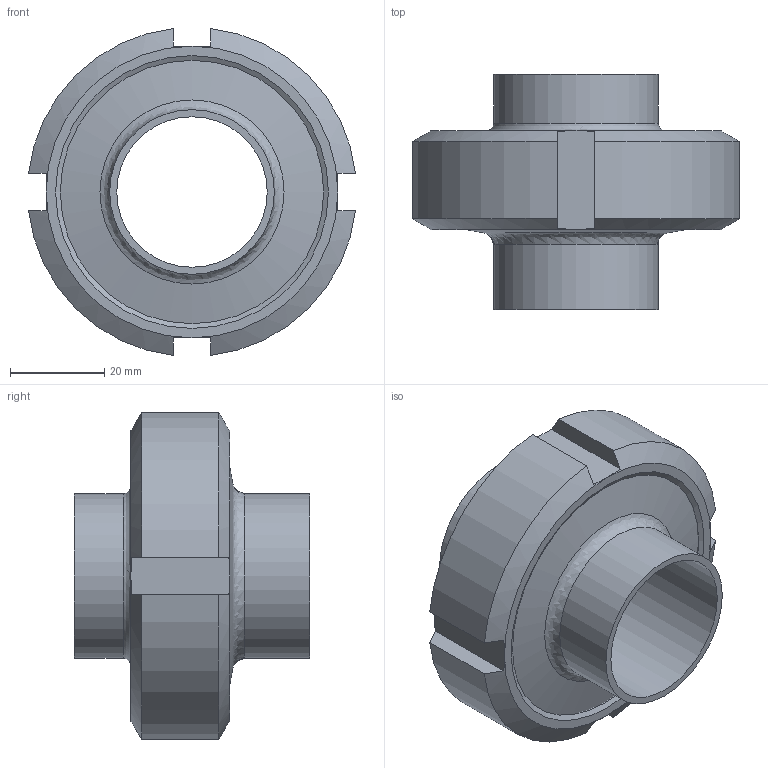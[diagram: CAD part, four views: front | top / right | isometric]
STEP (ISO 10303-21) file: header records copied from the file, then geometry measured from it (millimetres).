
FILE_DESCRIPTION((''),'2;1');
FILE_NAME('V:\Výkresy (KATALOG + NÁVODY)\3D-pdf\2xxxx\STEP\20120\2012-032-R ŠROUBENÍ PŘIVAŘOVACÍ.stp','2018-08-27T14:48:19',('fonai'),(''),'Autodesk Inventor 2010','Autodesk Inventor 2010','');
FILE_SCHEMA(('AUTOMOTIVE_DESIGN { 1 0 10303 214 1 1 1 1 }'));
Length unit declared in the file: millimetre
Products named in the file (5): 2012-032-R ŠROUBENÍ PŘIVAŘOVACÍ; 2010-032-R ZÁVITOVE HRDLO; 20040-032-Těsnění; 2011-032-R Kuželové hrdlo; 2003-032 Převlečná matice
Assembly tree (4 placements, depth 2):
  2012-032-R ŠROUBENÍ PŘIVAŘOVACÍ
    2010-032-R ZÁVITOVE HRDLO
    20040-032-Těsnění
    2011-032-R Kuželové hrdlo
    2003-032 Převlečná matice
Bounding box: 69.54 x 50 x 69.54 mm (x, y, z)
Volume: 64425 mm3; surface area: 34723.1 mm2
Topology: 4 solids, 4 shells, 59 faces, 120 edges, 74 vertices
Faces by surface type: plane 25, cylinder 16, cone 15, bspline 2, torus 1
Full cylindrical faces by diameter (mm): 32 x2, 35 x2, 36 x2, 41 x1, 42 x1, 45.8 x1, 46 x1, 56 x1, 58 x1
Entity records: 1643 total; most frequent: CARTESIAN_POINT 392, DIRECTION 248, ORIENTED_EDGE 196, AXIS2_PLACEMENT_3D 116, EDGE_CURVE 98, EDGE_LOOP 94, VERTEX_POINT 74, FACE_OUTER_BOUND 59
